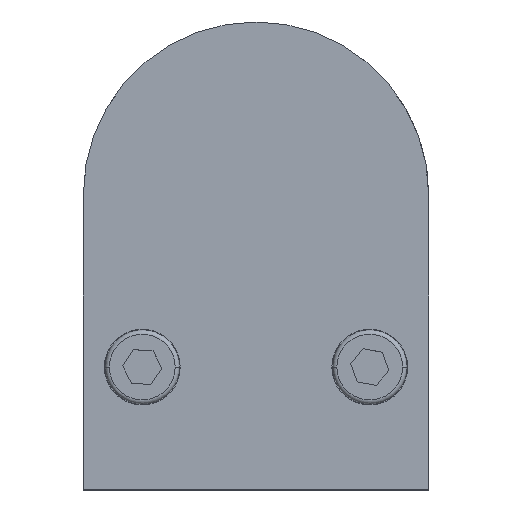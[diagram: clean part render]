
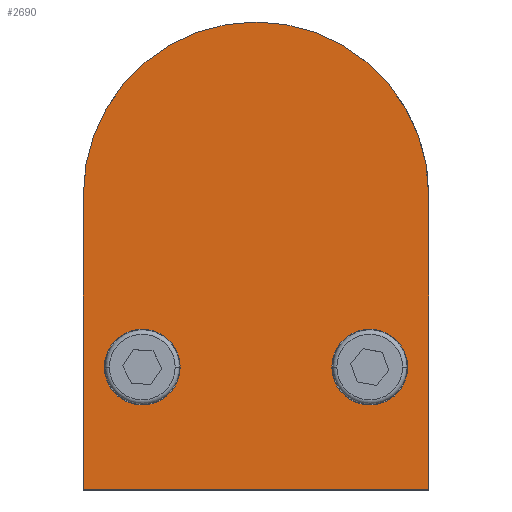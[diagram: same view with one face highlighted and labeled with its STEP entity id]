
A CAD part, top view. The second image highlights one B-rep face of the part: STEP entity #2690.
In plain terms, the highlighted planar face has unit normal (0, 0, 1).
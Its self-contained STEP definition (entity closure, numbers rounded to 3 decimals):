
#21 = DIRECTION ( 'NONE',  ( 0., 0., 1. ) ) ;
#39 = ORIENTED_EDGE ( 'NONE', *, *, #1260, .T. ) ;
#77 = EDGE_CURVE ( 'NONE', #2198, #240, #1908, .T. ) ;
#99 = FACE_OUTER_BOUND ( 'NONE', #1761, .T. ) ;
#125 = VERTEX_POINT ( 'NONE', #573 ) ;
#230 = VERTEX_POINT ( 'NONE', #1108 ) ;
#240 = VERTEX_POINT ( 'NONE', #2876 ) ;
#317 = FACE_BOUND ( 'NONE', #1053, .T. ) ;
#435 = DIRECTION ( 'NONE',  ( 0., 0., 1. ) ) ;
#465 = ORIENTED_EDGE ( 'NONE', *, *, #2177, .T. ) ;
#469 = DIRECTION ( 'NONE',  ( 1., 0., 0. ) ) ;
#499 = EDGE_CURVE ( 'NONE', #1197, #1946, #1062, .T. ) ;
#527 = PLANE ( 'NONE',  #819 ) ;
#573 = CARTESIAN_POINT ( 'NONE',  ( -20.5, 24.496, 14.25 ) ) ;
#578 = DIRECTION ( 'NONE',  ( 0., 0., 1. ) ) ;
#610 = CARTESIAN_POINT ( 'NONE',  ( 0., 59.5, 14.25 ) ) ;
#636 = EDGE_CURVE ( 'NONE', #1313, #125, #1104, .T. ) ;
#651 = VECTOR ( 'NONE', #1056, 1000. ) ;
#706 = CARTESIAN_POINT ( 'NONE',  ( -13.5, 39.038, 14.25 ) ) ;
#744 = AXIS2_PLACEMENT_3D ( 'NONE', #2499, #2717, #2284 ) ;
#762 = CARTESIAN_POINT ( 'NONE',  ( 9., 39.038, 14.25 ) ) ;
#778 = EDGE_CURVE ( 'NONE', #1946, #1197, #2554, .T. ) ;
#807 = EDGE_CURVE ( 'NONE', #1313, #230, #1705, .T. ) ;
#819 = AXIS2_PLACEMENT_3D ( 'NONE', #1857, #578, #1274 ) ;
#822 = DIRECTION ( 'NONE',  ( 1., 0., 0. ) ) ;
#887 = DIRECTION ( 'NONE',  ( 1., 0., 0. ) ) ;
#917 = CARTESIAN_POINT ( 'NONE',  ( -18., 39.038, 14.25 ) ) ;
#1053 = EDGE_LOOP ( 'NONE', ( #1877, #2106 ) ) ;
#1056 = DIRECTION ( 'NONE',  ( 0., 1., 0. ) ) ;
#1062 = CIRCLE ( 'NONE', #2009, 4.5 ) ;
#1104 = LINE ( 'NONE', #2006, #1727 ) ;
#1108 = CARTESIAN_POINT ( 'NONE',  ( 20.5, 59.5, 14.25 ) ) ;
#1197 = VERTEX_POINT ( 'NONE', #2560 ) ;
#1211 = DIRECTION ( 'NONE',  ( 0., -1., 0. ) ) ;
#1240 = ORIENTED_EDGE ( 'NONE', *, *, #636, .F. ) ;
#1253 = LINE ( 'NONE', #2308, #2501 ) ;
#1260 = EDGE_CURVE ( 'NONE', #230, #2555, #2833, .T. ) ;
#1274 = DIRECTION ( 'NONE',  ( 1., 0., 0. ) ) ;
#1293 = AXIS2_PLACEMENT_3D ( 'NONE', #2370, #2609, #822 ) ;
#1313 = VERTEX_POINT ( 'NONE', #2092 ) ;
#1563 = DIRECTION ( 'NONE',  ( -1., 0., 0. ) ) ;
#1705 = LINE ( 'NONE', #1932, #651 ) ;
#1727 = VECTOR ( 'NONE', #1563, 1000. ) ;
#1761 = EDGE_LOOP ( 'NONE', ( #1240, #1972, #39, #465 ) ) ;
#1812 = AXIS2_PLACEMENT_3D ( 'NONE', #2258, #435, #887 ) ;
#1857 = CARTESIAN_POINT ( 'NONE',  ( 0., 59.5, 14.25 ) ) ;
#1877 = ORIENTED_EDGE ( 'NONE', *, *, #499, .F. ) ;
#1908 = CIRCLE ( 'NONE', #744, 4.5 ) ;
#1914 = AXIS2_PLACEMENT_3D ( 'NONE', #610, #2572, #1990 ) ;
#1932 = CARTESIAN_POINT ( 'NONE',  ( 20.5, 0., 14.25 ) ) ;
#1946 = VERTEX_POINT ( 'NONE', #917 ) ;
#1972 = ORIENTED_EDGE ( 'NONE', *, *, #807, .T. ) ;
#1990 = DIRECTION ( 'NONE',  ( 1., 0., 0. ) ) ;
#2004 = CARTESIAN_POINT ( 'NONE',  ( -20.5, 59.5, 14.25 ) ) ;
#2006 = CARTESIAN_POINT ( 'NONE',  ( 47.6, 24.496, 14.25 ) ) ;
#2009 = AXIS2_PLACEMENT_3D ( 'NONE', #706, #21, #469 ) ;
#2092 = CARTESIAN_POINT ( 'NONE',  ( 20.5, 24.496, 14.25 ) ) ;
#2106 = ORIENTED_EDGE ( 'NONE', *, *, #778, .F. ) ;
#2107 = FACE_BOUND ( 'NONE', #2253, .T. ) ;
#2148 = ORIENTED_EDGE ( 'NONE', *, *, #77, .F. ) ;
#2177 = EDGE_CURVE ( 'NONE', #2555, #125, #1253, .T. ) ;
#2198 = VERTEX_POINT ( 'NONE', #762 ) ;
#2253 = EDGE_LOOP ( 'NONE', ( #2761, #2148 ) ) ;
#2258 = CARTESIAN_POINT ( 'NONE',  ( 13.5, 39.038, 14.25 ) ) ;
#2284 = DIRECTION ( 'NONE',  ( 1., 0., 0. ) ) ;
#2308 = CARTESIAN_POINT ( 'NONE',  ( -20.5, 0., 14.25 ) ) ;
#2370 = CARTESIAN_POINT ( 'NONE',  ( -13.5, 39.038, 14.25 ) ) ;
#2461 = EDGE_CURVE ( 'NONE', #240, #2198, #2731, .T. ) ;
#2499 = CARTESIAN_POINT ( 'NONE',  ( 13.5, 39.038, 14.25 ) ) ;
#2501 = VECTOR ( 'NONE', #1211, 1000. ) ;
#2554 = CIRCLE ( 'NONE', #1293, 4.5 ) ;
#2555 = VERTEX_POINT ( 'NONE', #2004 ) ;
#2560 = CARTESIAN_POINT ( 'NONE',  ( -9., 39.038, 14.25 ) ) ;
#2572 = DIRECTION ( 'NONE',  ( 0., 0., 1. ) ) ;
#2609 = DIRECTION ( 'NONE',  ( 0., 0., 1. ) ) ;
#2690 = ADVANCED_FACE ( 'NONE', ( #317, #2107, #99 ), #527, .T. ) ;
#2717 = DIRECTION ( 'NONE',  ( 0., 0., 1. ) ) ;
#2731 = CIRCLE ( 'NONE', #1812, 4.5 ) ;
#2761 = ORIENTED_EDGE ( 'NONE', *, *, #2461, .F. ) ;
#2833 = CIRCLE ( 'NONE', #1914, 20.5 ) ;
#2876 = CARTESIAN_POINT ( 'NONE',  ( 18., 39.038, 14.25 ) ) ;
